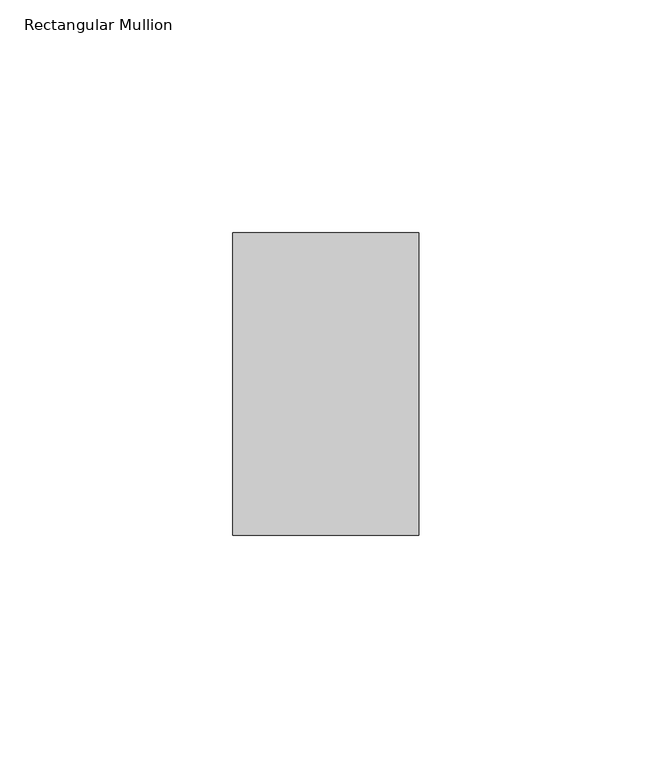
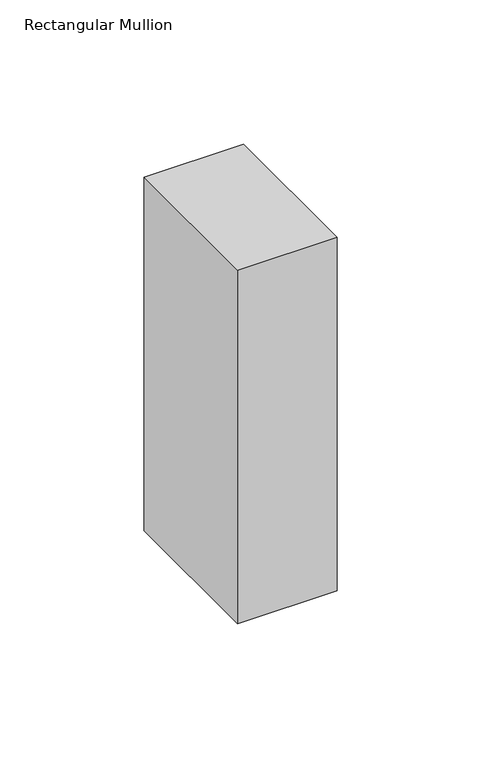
"""IFC4 building model written with IfcOpenShell, lengths in millimetres: member geometry, Rectangular Mullion : Batten_Timber_Modinex_Austratus_Grid_Fascia_40x65_AlaskanYellowCedar."""

from ifc_helpers import new_model, si_unit, frame, origin, place, context, project, spatial, polyline, outline, extrude, source, transform, mapped, element, save


def rectangular_mullion_f7732041(model_context):
    return source(origin(), model_context, "Body", "SweptSolid", [
        extrude(outline(polyline([(-40.0, 65.0), (0.0, 65.0), (0.0, 0.0), (-40.0, 0.0), (-40.0, 65.0)])), frame((0.0, 0.0, -150.0), z_axis=(0.0, 0.0, 1.0), x_axis=(1.0, 0.0, 0.0)), (0.0, 0.0, 1.0), 150.0),
    ])


if __name__ == "__main__":
    model = new_model("IFC4")
    model_context = context("Model", 3, world=origin())
    ifc_project = project(units=[si_unit("LENGTHUNIT", "METRE", prefix="MILLI")], contexts=[model_context])
    site = spatial("IfcSite", under=ifc_project)
    building = spatial("IfcBuilding", under=site)
    placement = place(None, origin())
    rectangular_mullion_shape = rectangular_mullion_f7732041(model_context)
    element("IfcMember", 1, ObjectType="Rectangular Mullion : Batten_Timber_Modinex_Austratus_Grid_Fascia_40x65_AlaskanYellowCedar", at=placement, inside=building, context=model_context, shape_type="MappedRepresentation", body=[
        mapped(rectangular_mullion_shape, transform((0.0, 0.0, 0.0), x_axis=(1.0, 0.0, 0.0), y_axis=(0.0, 1.0, 0.0), z_axis=(0.0, 0.0, 1.0))),
    ])
    save(model, "model.ifc")
